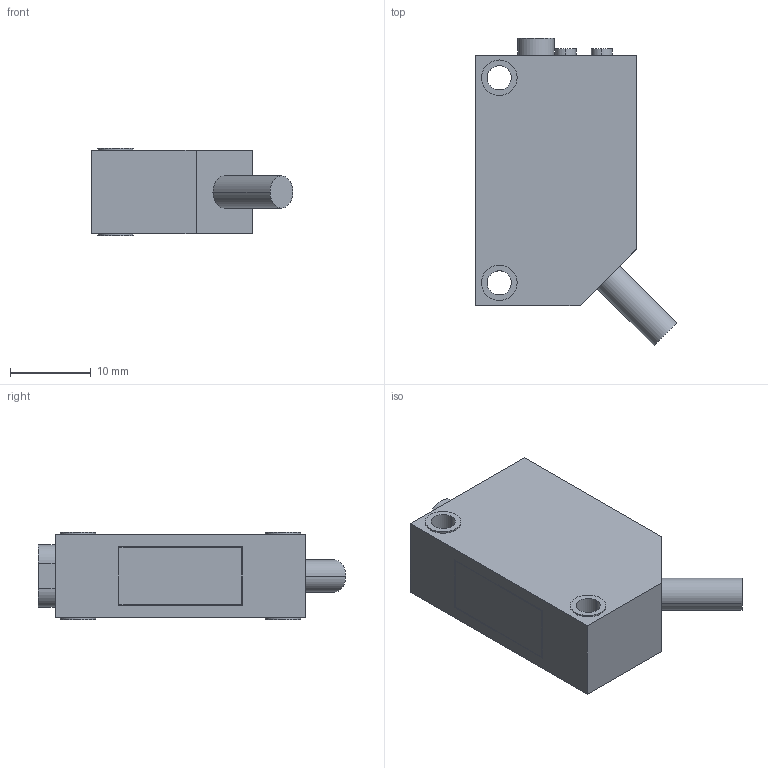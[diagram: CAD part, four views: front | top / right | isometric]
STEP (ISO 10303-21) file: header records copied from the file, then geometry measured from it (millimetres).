
FILE_DESCRIPTION (( 'STEP AP203' ), '1' );
FILE_NAME ('E3Z_D61.step', '2013-07-18T11:58:22', ( 'OSMC1.0 TAKUMI' ), ( 'TAKUMI-Engniaring' ), 'SwSTEP 2.0', 'SolidWorks 2002025', '' );
FILE_SCHEMA (( 'CONFIG_CONTROL_DESIGN' ));
Length unit declared in the file: millimetre
Products named in the file (1): E3Z_D61
Bounding box: 24.99 x 38.09 x 10.8 mm (x, y, z)
Volume: 6243.7 mm3; surface area: 2713.4 mm2
Topology: 1 solids, 1 shells, 68 faces, 156 edges, 104 vertices
Faces by surface type: plane 47, cylinder 21
Entity records: 2007 total; most frequent: DIRECTION 336, CARTESIAN_POINT 329, ORIENTED_EDGE 312, EDGE_CURVE 156, LINE 114, VECTOR 114, AXIS2_PLACEMENT_3D 111, VERTEX_POINT 104
